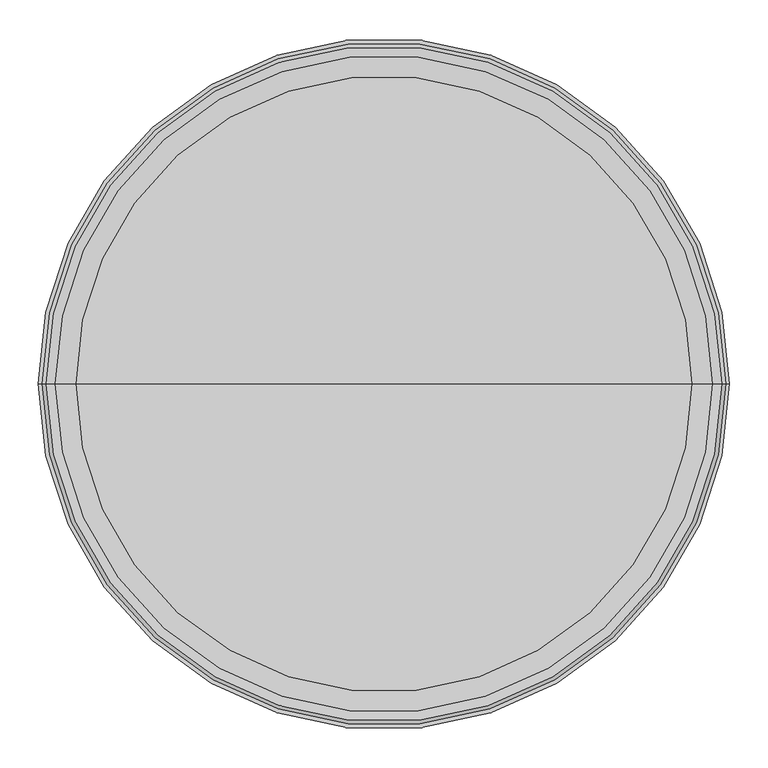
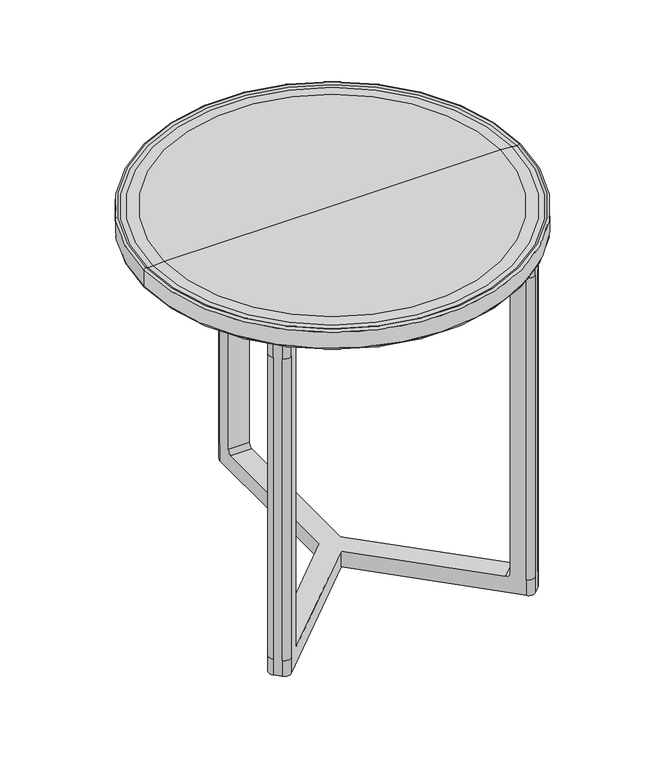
"""IFC4 building model written with IfcOpenShell, lengths in millimetres: furniture geometry, Mesa de Centro Hydra - Ø90cm : Mesa de Centro Hydra - Ø90cm."""

from ifc_helpers import new_model, si_unit, point, frame, frame_2d, origin, origin_with_axes, place, context, project, spatial, polyline, circle_curve, ellipse_curve, trimmed, segment, composite_curve, outline, extrude, source, transform, mapped, element, save
from ifc_brep_helpers import plane_surface, cylinder_surface, revolved_surface, advanced_brep


def furniture_dbd7fda2(model_context):
    return source(origin(), model_context, "Body", "SolidModel", [
        extrude(outline(composite_curve([segment(trimmed(circle_curve(frame_2d((0.0, 410.2587019)), 10.0), [point((-10.0, 410.2587019))], [point((10.0, 410.2587019))], False, "CARTESIAN"), True, "CONTINUOUS"), segment(trimmed(circle_curve(frame_2d((0.0, 410.2587019)), 10.0), [point((10.0, 410.2587019))], [point((-10.0, 410.2587019))], False, "CARTESIAN"), True, "CONTINUOUS")], self_intersect=False)), origin_with_axes(), (0.0, 0.0, 1.0), 10.0),
        extrude(outline(composite_curve([segment(trimmed(circle_curve(frame_2d((-290.0967101, -290.0967101)), 10.0), [point((-283.0256423, -297.167778))], [point((-297.167778, -283.0256423))], False, "CARTESIAN"), True, "CONTINUOUS"), segment(trimmed(circle_curve(frame_2d((-290.0967101, -290.0967101)), 10.0), [point((-297.167778, -283.0256423))], [point((-283.0256423, -297.167778))], False, "CARTESIAN"), True, "CONTINUOUS")], self_intersect=False)), origin_with_axes(), (0.0, 0.0, 1.0), 10.0),
        extrude(outline(composite_curve([segment(trimmed(circle_curve(frame_2d((290.0967101, -290.0967101)), 10.0), [point((283.0256423, -297.167778))], [point((297.167778, -283.0256423))], False, "CARTESIAN"), True, "CONTINUOUS"), segment(trimmed(circle_curve(frame_2d((290.0967101, -290.0967101)), 10.0), [point((297.167778, -283.0256423))], [point((283.0256423, -297.167778))], False, "CARTESIAN"), True, "CONTINUOUS")], self_intersect=False)), origin_with_axes(), (0.0, 0.0, 1.0), 10.0),
        advanced_brep(
        [(25.0, 10.3553391, 50.0), (25.0, 376.5895479, 50.0), (-25.0, 376.5895479, 50.0), (-25.0, 10.3553391, 50.0), (-283.9666926, -248.6113535, 50.0), (-248.6113535, -283.9666926, 50.0), (0.0, -35.3553391, 50.0), (248.6113535, -283.9666926, 50.0), (283.9666926, -248.6113535, 50.0), (-25.0, 10.3553391, 10.0), (-25.0, 421.5895479, 10.0), (-10.0, 436.5895479, 10.0), (10.0, 436.5895479, 10.0), (25.0, 421.5895479, 10.0), (25.0, 10.3553391, 10.0), (315.7864977, -280.4311587, 10.0), (315.7864977, -301.6443621, 10.0), (301.6443621, -315.7864977, 10.0), (280.4311587, -315.7864977, 10.0), (0.0, -35.3553391, 10.0), (-280.4311587, -315.7864977, 10.0), (-301.6443621, -315.7864977, 10.0), (-315.7864977, -301.6443621, 10.0), (-315.7864977, -280.4311587, 10.0), (25.0, 421.5895479, 50.0), (25.0, 421.5895479, 810.0), (25.0, 421.5895479, 850.0), (25.0, 10.3553391, 850.0), (25.0, 10.3553391, 810.0), (25.0, 386.5895479, 810.0), (25.0, 386.5895479, 60.0), (10.0, 436.5895479, 50.0), (-10.0, 436.5895479, 50.0), (-10.0, 436.5895479, 810.0), (-10.0, 436.5895479, 850.0), (10.0, 436.5895479, 850.0), (10.0, 436.5895479, 810.0), (-25.0, 421.5895479, 50.0), (-25.0, 386.5895479, 60.0), (-25.0, 386.5895479, 810.0), (-25.0, 10.3553391, 810.0), (-25.0, 10.3553391, 850.0), (-25.0, 421.5895479, 850.0), (-25.0, 421.5895479, 810.0), (-315.7864977, -280.4311587, 810.0), (-315.7864977, -280.4311587, 50.0), (-315.7864977, -301.6443621, 50.0), (-315.7864977, -301.6443621, 810.0), (-301.6443621, -315.7864977, 810.0), (-301.6443621, -315.7864977, 50.0), (-280.4311587, -315.7864977, 50.0), (-280.4311587, -315.7864977, 810.0), (-291.0377604, -255.6824213, 60.0), (-291.0377604, -255.6824213, 810.0), (-255.6824213, -291.0377604, 810.0), (-255.6824213, -291.0377604, 60.0), (280.4311587, -315.7864977, 810.0), (280.4311587, -315.7864977, 50.0), (301.6443621, -315.7864977, 50.0), (301.6443621, -315.7864977, 810.0), (315.7864977, -301.6443621, 810.0), (315.7864977, -301.6443621, 50.0), (315.7864977, -280.4311587, 50.0), (315.7864977, -280.4311587, 810.0), (255.6824213, -291.0377604, 60.0), (255.6824213, -291.0377604, 810.0), (291.0377604, -255.6824213, 810.0), (291.0377604, -255.6824213, 60.0), (-315.7864977, -280.4311587, 850.0), (-301.6443621, -315.7864977, 850.0), (-315.7864977, -301.6443621, 850.0), (0.0, -35.3553391, 810.0), (0.0, -35.3553391, 850.0), (-280.4311587, -315.7864977, 850.0), (280.4311587, -315.7864977, 850.0), (315.7864977, -301.6443621, 850.0), (301.6443621, -315.7864977, 850.0), (315.7864977, -280.4311587, 850.0)],
        [
            (0, 1),
            (1, 2),
            (2, 3),
            (3, 4),
            (4, 5),
            (5, 6),
            (6, 7),
            (7, 8),
            (8, 0),
            (9, 10),
            (10, 11, circle_curve(frame((-10.0, 421.5895479, 10.0), z_axis=(0.0, 0.0, -1.0), x_axis=(1.0, 0.0, 0.0)), 15.0)),
            (11, 12),
            (12, 13, circle_curve(frame((10.0, 421.5895479, 10.0), z_axis=(0.0, 0.0, -1.0), x_axis=(1.0, 0.0, 0.0)), 15.0)),
            (13, 14),
            (14, 15),
            (15, 16, circle_curve(frame((305.179896, -291.0377604, 10.0), z_axis=(0.0, 0.0, -1.0), x_axis=(0.7071067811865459, 0.7071067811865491, 0.0)), 15.0)),
            (16, 17),
            (17, 18, circle_curve(frame((291.0377604, -305.179896, 10.0), z_axis=(0.0, 0.0, -1.0), x_axis=(0.7071067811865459, 0.7071067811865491, 0.0)), 15.0)),
            (18, 19),
            (19, 20),
            (20, 21, circle_curve(frame((-291.0377604, -305.179896, 10.0), z_axis=(0.0, 0.0, -1.0), x_axis=(-0.7071067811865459, 0.7071067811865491, 0.0)), 15.0)),
            (21, 22),
            (22, 23, circle_curve(frame((-305.179896, -291.0377604, 10.0), z_axis=(0.0, 0.0, -1.0), x_axis=(-0.7071067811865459, 0.7071067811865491, 0.0)), 15.0)),
            (23, 9),
            (13, 24),
            (24, 25),
            (25, 26),
            (26, 27),
            (27, 28),
            (28, 29),
            (29, 30),
            (30, 1, circle_curve(frame((25.0, 376.5895479, 60.0), z_axis=(-1.0, 0.0, 0.0), x_axis=(0.0, -1.0, 0.0)), 10.0)),
            (0, 14),
            (12, 31),
            (31, 24, circle_curve(frame((10.0, 421.5895479, 50.0), z_axis=(0.0, 0.0, -1.0), x_axis=(1.0, 0.0, 0.0)), 15.0)),
            (11, 32),
            (32, 33),
            (33, 34),
            (34, 35),
            (35, 36),
            (36, 31),
            (10, 37),
            (37, 32, circle_curve(frame((-10.0, 421.5895479, 50.0), z_axis=(0.0, 0.0, -1.0), x_axis=(1.0, 0.0, 0.0)), 15.0)),
            (9, 3),
            (2, 38, circle_curve(frame((-25.0, 376.5895479, 60.0), z_axis=(1.0, 0.0, 0.0), x_axis=(0.0, -1.0, 0.0)), 10.0)),
            (38, 39),
            (39, 40),
            (40, 41),
            (41, 42),
            (42, 43),
            (43, 37),
            (44, 45),
            (45, 46, circle_curve(frame((-305.179896, -291.0377604, 50.0), z_axis=(0.0, 0.0, 1.0), x_axis=(-0.7071067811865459, 0.7071067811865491, 0.0)), 15.0)),
            (46, 47),
            (47, 44, circle_curve(frame((-305.179896, -291.0377604, 810.0), z_axis=(0.0, 0.0, -1.0), x_axis=(-0.7071067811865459, 0.7071067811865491, 0.0)), 15.0)),
            (48, 49),
            (49, 50, circle_curve(frame((-291.0377604, -305.179896, 50.0), z_axis=(0.0, 0.0, 1.0), x_axis=(-0.7071067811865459, 0.7071067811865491, 0.0)), 15.0)),
            (50, 51),
            (51, 48, circle_curve(frame((-291.0377604, -305.179896, 810.0), z_axis=(0.0, 0.0, -1.0), x_axis=(-0.7071067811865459, 0.7071067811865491, 0.0)), 15.0)),
            (52, 53),
            (53, 54),
            (54, 55),
            (55, 52),
            (56, 57),
            (57, 58, circle_curve(frame((291.0377604, -305.179896, 50.0), z_axis=(0.0, 0.0, 1.0), x_axis=(0.7071067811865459, 0.7071067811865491, 0.0)), 15.0)),
            (58, 59),
            (59, 56, circle_curve(frame((291.0377604, -305.179896, 810.0), z_axis=(0.0, 0.0, -1.0), x_axis=(0.7071067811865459, 0.7071067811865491, 0.0)), 15.0)),
            (60, 61),
            (61, 62, circle_curve(frame((305.179896, -291.0377604, 50.0), z_axis=(0.0, 0.0, 1.0), x_axis=(0.7071067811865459, 0.7071067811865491, 0.0)), 15.0)),
            (62, 63),
            (63, 60, circle_curve(frame((305.179896, -291.0377604, 810.0), z_axis=(0.0, 0.0, -1.0), x_axis=(0.7071067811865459, 0.7071067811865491, 0.0)), 15.0)),
            (64, 65),
            (65, 66),
            (66, 67),
            (67, 64),
            (36, 25, circle_curve(frame((10.0, 421.5895479, 810.0), z_axis=(0.0, 0.0, -1.0), x_axis=(-1.0, 0.0, 0.0)), 15.0)),
            (43, 33, circle_curve(frame((-10.0, 421.5895479, 810.0), z_axis=(0.0, 0.0, -1.0), x_axis=(-1.0, 0.0, 0.0)), 15.0)),
            (29, 39),
            (38, 30),
            (4, 52, circle_curve(frame((-283.9666926, -248.6113535, 60.0), z_axis=(-0.7071067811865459, 0.7071067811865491, 0.0), x_axis=(0.7071067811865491, 0.7071067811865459, 0.0)), 10.0)),
            (55, 5, circle_curve(frame((-248.6113535, -283.9666926, 60.0), z_axis=(0.7071067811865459, -0.7071067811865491, 0.0), x_axis=(0.7071067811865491, 0.7071067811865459, 0.0)), 10.0)),
            (67, 8, circle_curve(frame((283.9666926, -248.6113535, 60.0), z_axis=(0.7071067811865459, 0.7071067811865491, 0.0), x_axis=(-0.7071067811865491, 0.7071067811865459, 0.0)), 10.0)),
            (7, 64, circle_curve(frame((248.6113535, -283.9666926, 60.0), z_axis=(-0.7071067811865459, -0.7071067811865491, 0.0), x_axis=(-0.7071067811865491, 0.7071067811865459, 0.0)), 10.0)),
            (23, 45),
            (44, 68),
            (68, 41),
            (40, 53),
            (22, 46),
            (21, 49),
            (48, 69),
            (69, 70),
            (70, 47),
            (20, 50),
            (19, 6),
            (54, 71),
            (71, 72),
            (72, 73),
            (73, 51),
            (18, 57),
            (56, 74),
            (74, 72),
            (71, 65),
            (17, 58),
            (16, 61),
            (60, 75),
            (75, 76),
            (76, 59),
            (15, 62),
            (66, 28),
            (27, 77),
            (77, 63),
            (68, 70, circle_curve(frame((-305.179896, -291.0377604, 850.0), z_axis=(0.0, 0.0, 1.0), x_axis=(1.0, 0.0, 0.0)), 15.0)),
            (69, 73, circle_curve(frame((-291.0377604, -305.179896, 850.0), z_axis=(0.0, 0.0, 1.0), x_axis=(1.0, 0.0, 0.0)), 15.0)),
            (74, 76, circle_curve(frame((291.0377604, -305.179896, 850.0), z_axis=(0.0, 0.0, 1.0), x_axis=(1.0, 0.0, 0.0)), 15.0)),
            (75, 77, circle_curve(frame((305.179896, -291.0377604, 850.0), z_axis=(0.0, 0.0, 1.0), x_axis=(1.0, 0.0, 0.0)), 15.0)),
            (26, 35, circle_curve(frame((10.0, 421.5895479, 850.0), z_axis=(0.0, 0.0, 1.0), x_axis=(1.0, 0.0, 0.0)), 15.0)),
            (34, 42, circle_curve(frame((-10.0, 421.5895479, 850.0), z_axis=(0.0, 0.0, 1.0), x_axis=(1.0, 0.0, 0.0)), 15.0)),
        ],
        [
            plane_surface(frame((-265.1650429, -229.8097039, 50.0), z_axis=(0.0, 0.0, 1.0), x_axis=(-0.7071067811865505, -0.7071067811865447, 0.0))),
            plane_surface(frame((-265.1650429, -229.8097039, 10.0), z_axis=(0.0, 0.0, -1.0), x_axis=(0.7071067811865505, 0.7071067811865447, 0.0))),
            plane_surface(frame((25.0, 10.3553391, 50.0), z_axis=(1.0, 0.0, 0.0), x_axis=(0.0, 0.0, -1.0))),
            cylinder_surface(frame((10.0, 421.5895479, 10.0), z_axis=(0.0, 0.0, 1.0), x_axis=(1.0, 0.0, 0.0)), 15.0),
            plane_surface(frame((10.0, 436.5895479, 50.0), z_axis=(0.0, 1.0, 0.0), x_axis=(0.0, 0.0, -1.0))),
            cylinder_surface(frame((-10.0, 421.5895479, 10.0), z_axis=(0.0, 0.0, 1.0), x_axis=(1.0, 0.0, 0.0)), 15.0),
            plane_surface(frame((-25.0, 421.5895479, 50.0), z_axis=(-1.0, 0.0, 0.0), x_axis=(0.0, 0.0, -1.0))),
            cylinder_surface(frame((-305.179896, -291.0377604, 50.0), z_axis=(0.0, 0.0, 1.0), x_axis=(-0.7071067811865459, 0.7071067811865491, 0.0)), 15.0),
            cylinder_surface(frame((-291.0377604, -305.179896, 50.0), z_axis=(0.0, 0.0, 1.0), x_axis=(-0.7071067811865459, 0.7071067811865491, 0.0)), 15.0),
            plane_surface(frame((-255.6824213, -291.0377604, 810.0), z_axis=(0.7071067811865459, 0.7071067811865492, 0.0), x_axis=(0.0, 0.0, -1.0))),
            cylinder_surface(frame((291.0377604, -305.179896, 0.0), z_axis=(0.0, 0.0, 1.0), x_axis=(0.7071067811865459, 0.7071067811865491, 0.0)), 15.0),
            cylinder_surface(frame((305.179896, -291.0377604, 0.0), z_axis=(0.0, 0.0, 1.0), x_axis=(0.7071067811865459, 0.7071067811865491, 0.0)), 15.0),
            plane_surface(frame((291.0377604, -255.6824213, 810.0), z_axis=(-0.7071067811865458, 0.7071067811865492, 0.0), x_axis=(0.0, 0.0, -1.0))),
            cylinder_surface(frame((10.0, 421.5895479, 0.0), z_axis=(0.0, 0.0, 1.0), x_axis=(-1.0, 0.0, 0.0)), 15.0),
            cylinder_surface(frame((-10.0, 421.5895479, 0.0), z_axis=(0.0, 0.0, 1.0), x_axis=(-1.0, 0.0, 0.0)), 15.0),
            plane_surface(frame((-25.0, 386.5895479, 810.0), z_axis=(0.0, -1.0, 0.0), x_axis=(0.0, 0.0, -1.0))),
            revolved_surface(polyline([(-25.0, 366.5895479, 60.0), (25.0, 366.5895479, 60.0)]), (-25.0, 376.5895479, 60.0), (-1.0, 0.0, 0.0)),
            revolved_surface(polyline([(-241.54028568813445, -276.89562478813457, 60.0), (-276.8956247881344, -241.54028568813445, 60.0)]), (-248.6113535, -283.9666926, 60.0), (0.7071067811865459, -0.7071067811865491, 0.0)),
            revolved_surface(polyline([(241.54028568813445, -276.89562478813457, 60.0), (276.8956247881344, -241.54028568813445, 60.0)]), (248.6113535, -283.9666926, 60.0), (-0.7071067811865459, -0.7071067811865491, 0.0)),
            plane_surface(frame((-25.0, 10.3553391, 50.0), z_axis=(-0.7071067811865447, 0.7071067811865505, 0.0), x_axis=(0.0, 0.0, -1.0))),
            cylinder_surface(frame((-305.179896, -291.0377604, 10.0), z_axis=(0.0, 0.0, 1.0), x_axis=(-0.7071067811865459, 0.7071067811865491, 0.0)), 15.0),
            plane_surface(frame((-315.7864977, -301.6443621, 50.0), z_axis=(-0.7071067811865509, -0.7071067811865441, 0.0), x_axis=(0.0, 0.0, -1.0))),
            cylinder_surface(frame((-291.0377604, -305.179896, 10.0), z_axis=(0.0, 0.0, 1.0), x_axis=(-0.7071067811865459, 0.7071067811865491, 0.0)), 15.0),
            plane_surface(frame((-280.4311587, -315.7864977, 50.0), z_axis=(0.7071067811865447, -0.7071067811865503, 0.0), x_axis=(0.0, 0.0, -1.0))),
            plane_surface(frame((0.0, -35.3553391, 50.0), z_axis=(-0.7071067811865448, -0.7071067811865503, 0.0), x_axis=(0.0, 0.0, -1.0))),
            cylinder_surface(frame((291.0377604, -305.179896, 10.0), z_axis=(0.0, 0.0, 1.0), x_axis=(0.7071067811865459, 0.7071067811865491, 0.0)), 15.0),
            plane_surface(frame((301.6443621, -315.7864977, 50.0), z_axis=(0.7071067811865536, -0.7071067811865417, 0.0), x_axis=(0.0, 0.0, -1.0))),
            cylinder_surface(frame((305.179896, -291.0377604, 10.0), z_axis=(0.0, 0.0, 1.0), x_axis=(0.7071067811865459, 0.7071067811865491, 0.0)), 15.0),
            plane_surface(frame((315.7864977, -280.4311587, 50.0), z_axis=(0.7071067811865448, 0.7071067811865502, 0.0), x_axis=(0.0, 0.0, -1.0))),
            plane_surface(frame((-265.1650429, -229.8097039, 850.0), z_axis=(0.0, 0.0, 1.0), x_axis=(-0.7071067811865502, -0.7071067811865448, 0.0))),
            plane_surface(frame((-265.1650429, -229.8097039, 810.0), z_axis=(0.0, 0.0, -1.0), x_axis=(0.7071067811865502, 0.7071067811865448, 0.0))),
            cylinder_surface(frame((10.0, 421.5895479, 810.0), z_axis=(0.0, 0.0, 1.0), x_axis=(1.0, 0.0, 0.0)), 15.0),
            cylinder_surface(frame((-10.0, 421.5895479, 810.0), z_axis=(0.0, 0.0, 1.0), x_axis=(1.0, 0.0, 0.0)), 15.0),
            cylinder_surface(frame((-305.179896, -291.0377604, 810.0), z_axis=(0.0, 0.0, 1.0), x_axis=(1.0, 0.0, 0.0)), 15.0),
            cylinder_surface(frame((-291.0377604, -305.179896, 810.0), z_axis=(0.0, 0.0, 1.0), x_axis=(1.0, 0.0, 0.0)), 15.0),
            cylinder_surface(frame((291.0377604, -305.179896, 810.0), z_axis=(0.0, 0.0, 1.0), x_axis=(1.0, 0.0, 0.0)), 15.0),
            cylinder_surface(frame((305.179896, -291.0377604, 810.0), z_axis=(0.0, 0.0, 1.0), x_axis=(1.0, 0.0, 0.0)), 15.0),
        ],
        [
            (0, [[1, 2, 3, 4, 5, 6, 7, 8, 9]]),
            (1, [[10, 11, 12, 13, 14, 15, 16, 17, 18, 19, 20, 21, 22, 23, 24]]),
            (2, [[-14, 25, 26, 27, 28, 29, 30, 31, 32, -1, 33]]),
            (3, [[-13, 34, 35, -25]]),
            (4, [[-12, 36, 37, 38, 39, 40, 41, -34]]),
            (5, [[-11, 42, 43, -36]]),
            (6, [[-10, 44, -3, 45, 46, 47, 48, 49, 50, 51, -42]]),
            (7, [[52, 53, 54, 55]]),
            (8, [[56, 57, 58, 59]]),
            (9, [[60, 61, 62, 63]]),
            (10, [[64, 65, 66, 67]]),
            (11, [[68, 69, 70, 71]]),
            (12, [[72, 73, 74, 75]]),
            (13, [[-26, -35, -41, 76]]),
            (14, [[-37, -43, -51, 77]]),
            (15, [[-31, 78, -46, 79]]),
            (16, [[-32, -79, -45, -2]]),
            (17, [[80, -63, 81, -5]]),
            (18, [[82, -8, 83, -75]]),
            (19, [[-24, 84, -52, 85, 86, -48, 87, -60, -80, -4, -44]]),
            (20, [[-23, 88, -53, -84]]),
            (21, [[-22, 89, -56, 90, 91, 92, -54, -88]]),
            (22, [[-21, 93, -57, -89]]),
            (23, [[-20, 94, -6, -81, -62, 95, 96, 97, 98, -58, -93]]),
            (24, [[-19, 99, -64, 100, 101, -96, 102, -72, -83, -7, -94]]),
            (25, [[-18, 103, -65, -99]]),
            (26, [[-17, 104, -68, 105, 106, 107, -66, -103]]),
            (27, [[-16, 108, -69, -104]]),
            (28, [[-15, -33, -9, -82, -74, 109, -29, 110, 111, -70, -108]]),
            (29, [[-86, 112, -91, 113, -97, -101, 114, -106, 115, -110, -28, 116, -39, 117, -49]]),
            (30, [[-30, -109, -73, -102, -95, -61, -87, -47, -78]]),
            (31, [[-116, -27, -76, -40]]),
            (32, [[-117, -38, -77, -50]]),
            (33, [[-112, -85, -55, -92]]),
            (34, [[-113, -90, -59, -98]]),
            (35, [[-114, -100, -67, -107]]),
            (36, [[-115, -105, -71, -111]]),
        ],
    ),
        advanced_brep(
        [(450.0, 0.0, 855.0), (-450.0, 0.0, 855.0), (-450.0, 0.0, 895.0), (450.0, 0.0, 895.0), (445.0, 0.0, 850.0), (-445.0, 0.0, 850.0), (0.0, 0.0, 850.0), (445.0, 0.0, 900.0), (-445.0, 0.0, 900.0), (-440.3395479, 0.0, 896.8111284), (440.3395479, 0.0, 896.8111284), (400.828043, 0.0, 900.0), (-400.828043, 0.0, 900.0), (0.0, 0.0, 900.0), (427.807576, 0.0, 898.3498611), (-427.807576, 0.0, 898.3498611)],
        [
            (0, 1, circle_curve(frame((0.0, 0.0, 855.0), z_axis=(0.0, 0.0, 1.0), x_axis=(-1.0, 0.0, 0.0)), 450.0)),
            (1, 2),
            (2, 3, circle_curve(frame((0.0, 0.0, 895.0), z_axis=(0.0, 0.0, -1.0), x_axis=(-1.0, 0.0, 0.0)), 450.0)),
            (3, 0),
            (1, 0, circle_curve(frame((0.0, 0.0, 855.0), z_axis=(0.0, 0.0, 1.0), x_axis=(-1.0, 0.0, 0.0)), 450.0)),
            (3, 2, circle_curve(frame((0.0, 0.0, 895.0), z_axis=(0.0, 0.0, -1.0), x_axis=(-1.0, 0.0, 0.0)), 450.0)),
            (4, 5, circle_curve(frame((0.0, 0.0, 850.0), z_axis=(0.0, 0.0, 1.0), x_axis=(-1.0, 0.0, 0.0)), 445.0)),
            (5, 1, circle_curve(frame((-445.0, 0.0, 855.0), z_axis=(0.0, 1.0, 0.0), x_axis=(1.0, 0.0, 0.0)), 5.0)),
            (0, 4, circle_curve(frame((445.0, 0.0, 855.0), z_axis=(0.0, 1.0, 0.0), x_axis=(-1.0, 0.0, 0.0)), 5.0)),
            (5, 4, circle_curve(frame((0.0, 0.0, 850.0), z_axis=(0.0, 0.0, 1.0), x_axis=(-1.0, 0.0, 0.0)), 445.0)),
            (6, 5),
            (4, 6),
            (7, 8, circle_curve(frame((0.0, 0.0, 900.0), z_axis=(0.0, 0.0, 1.0), x_axis=(-1.0, 0.0, 0.0)), 445.0)),
            (8, 9, circle_curve(frame((-445.0, 0.0, 895.0), z_axis=(0.0, 1.0, 0.0), x_axis=(1.0, 0.0, 0.0)), 5.0)),
            (9, 10, circle_curve(frame((0.0, 0.0, 896.8111284), z_axis=(0.0, 0.0, -1.0), x_axis=(-1.0, 0.0, 0.0)), 440.3395479)),
            (10, 7, circle_curve(frame((445.0, 0.0, 895.0), z_axis=(0.0, 1.0, 0.0), x_axis=(-1.0, 0.0, 0.0)), 5.0)),
            (8, 7, circle_curve(frame((0.0, 0.0, 900.0), z_axis=(0.0, 0.0, 1.0), x_axis=(-1.0, 0.0, 0.0)), 445.0)),
            (10, 9, circle_curve(frame((0.0, 0.0, 896.8111284), z_axis=(0.0, 0.0, -1.0), x_axis=(-1.0, 0.0, 0.0)), 440.3395479)),
            (2, 8, circle_curve(frame((-445.0, 0.0, 895.0), z_axis=(0.0, 1.0, 0.0), x_axis=(1.0, 0.0, 0.0)), 5.0)),
            (7, 3, circle_curve(frame((445.0, 0.0, 895.0), z_axis=(0.0, 1.0, 0.0), x_axis=(-1.0, 0.0, 0.0)), 5.0)),
            (11, 12, circle_curve(frame((0.0, 0.0, 900.0), z_axis=(0.0, 0.0, 1.0), x_axis=(-1.0, 0.0, 0.0)), 400.828043)),
            (12, 13),
            (13, 11),
            (12, 11, circle_curve(frame((0.0, 0.0, 900.0), z_axis=(0.0, 0.0, 1.0), x_axis=(-1.0, 0.0, 0.0)), 400.828043)),
            (14, 15, circle_curve(frame((0.0, 0.0, 898.3498611), z_axis=(0.0, 0.0, 1.0), x_axis=(-1.0, 0.0, 0.0)), 427.807576)),
            (15, 12, circle_curve(frame((-400.828043, 0.0, 678.6191972), z_axis=(0.0, 1.0, 0.0), x_axis=(1.0, 0.0, 0.0)), 221.3808028)),
            (11, 14, circle_curve(frame((400.828043, 0.0, 678.6191972), z_axis=(0.0, 1.0, 0.0), x_axis=(-1.0, 0.0, 0.0)), 221.3808028)),
            (15, 14, circle_curve(frame((0.0, 0.0, 898.3498611), z_axis=(0.0, 0.0, 1.0), x_axis=(-1.0, 0.0, 0.0)), 427.807576)),
            (9, 15),
            (14, 10),
        ],
        [
            cylinder_surface(frame((0.0, 0.0, 2527.4144888), z_axis=(0.0, 0.0, -1.0), x_axis=(-1.0, 0.0, 0.0)), 450.0),
            revolved_surface(trimmed(ellipse_curve(frame((-445.0, 0.0, 855.0), z_axis=(0.0, -1.0, 0.0), x_axis=(1.0, 0.0, 0.0)), 5.0, 5.0), [point((-450.0, 0.0, 855.0))], [point((-445.0, 0.0, 850.0))], True, "CARTESIAN"), (0.0, 0.0, 2527.4144888), (0.0, 0.0, -1.0)),
            plane_surface(frame((0.0, 0.0, 850.0), z_axis=(0.0, 0.0, -1.0), x_axis=(-1.0, 0.0, 0.0))),
            revolved_surface(trimmed(ellipse_curve(frame((-445.0, 0.0, 895.0), z_axis=(0.0, -1.0, 0.0), x_axis=(1.0, 0.0, 0.0)), 5.0, 5.0), [point((-440.3395479, 0.0, 896.8111284))], [point((-445.0, 0.0, 900.0))], True, "CARTESIAN"), (0.0, 0.0, 2527.4144888), (0.0, 0.0, -1.0)),
            revolved_surface(trimmed(ellipse_curve(frame((-445.0, 0.0, 895.0), z_axis=(0.0, -1.0, 0.0), x_axis=(1.0, 0.0, 0.0)), 5.0, 5.0), [point((-445.0, 0.0, 900.0))], [point((-450.0, 0.0, 895.0))], True, "CARTESIAN"), (0.0, 0.0, 2527.4144888), (0.0, 0.0, -1.0)),
            plane_surface(frame((0.0, 0.0, 900.0), z_axis=(0.0, 0.0, 1.0), x_axis=(-1.0, 0.0, 0.0))),
            revolved_surface(trimmed(ellipse_curve(frame((-400.828043, 0.0, 678.6191972), z_axis=(0.0, -1.0, 0.0), x_axis=(1.0, 0.0, 0.0)), 221.3808028, 221.3808028), [point((-400.828043, 0.0, 900.0))], [point((-427.807576, 0.0, 898.3498611))], True, "CARTESIAN"), (0.0, 0.0, 2527.4144888), (0.0, 0.0, -1.0)),
            revolved_surface(polyline([(-427.807576, 0.0, 898.3498611), (-440.3395479, 0.0, 896.8111284)]), (0.0, 0.0, 2527.4144888), (0.0, 0.0, -1.0)),
        ],
        [
            (0, [[1, 2, 3, 4]]),
            (0, [[5, -4, 6, -2]]),
            (1, [[7, 8, -1, 9]]),
            (1, [[10, -9, -5, -8]]),
            (2, [[11, -7, 12]]),
            (2, [[-12, -10, -11]]),
            (3, [[13, 14, 15, 16]]),
            (3, [[17, -16, 18, -14]]),
            (4, [[-3, 19, -13, 20]]),
            (4, [[-6, -20, -17, -19]]),
            (5, [[21, 22, 23]]),
            (5, [[24, -23, -22]]),
            (6, [[25, 26, -21, 27]]),
            (6, [[28, -27, -24, -26]]),
            (7, [[-15, 29, -25, 30]]),
            (7, [[-18, -30, -28, -29]]),
        ],
    ),
    ])


if __name__ == "__main__":
    model = new_model("IFC4")
    model_context = context("Model", 3, world=origin())
    ifc_project = project(units=[si_unit("LENGTHUNIT", "METRE", prefix="MILLI")], contexts=[model_context])
    site = spatial("IfcSite", under=ifc_project)
    building = spatial("IfcBuilding", under=site)
    placement = place(None, origin())
    furniture_shape = furniture_dbd7fda2(model_context)
    element("IfcFurniture", 1, ObjectType="Mesa de Centro Hydra - Ø90cm : Mesa de Centro Hydra - Ø90cm", at=placement, inside=building, context=model_context, shape_type="MappedRepresentation", body=[
        mapped(furniture_shape, transform((0.0, 0.0, 0.0), x_axis=(1.0, 0.0, 0.0), y_axis=(0.0, 1.0, 0.0), z_axis=(0.0, 0.0, 1.0))),
    ])
    save(model, "model.ifc")
